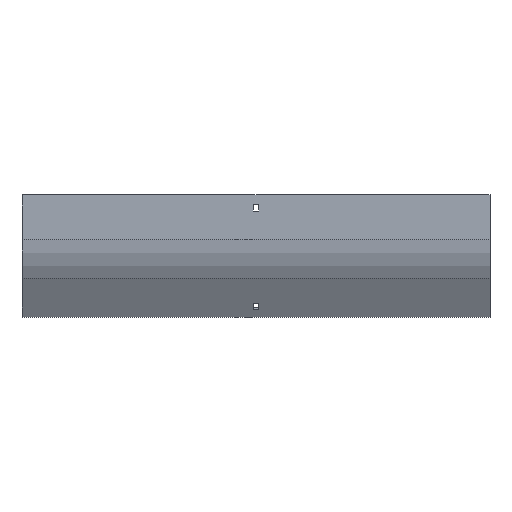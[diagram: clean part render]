
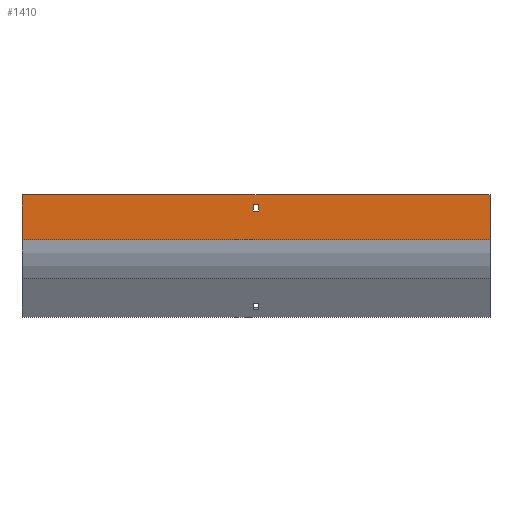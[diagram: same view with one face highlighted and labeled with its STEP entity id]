
A CAD part, front view. The second image highlights one B-rep face of the part: STEP entity #1410.
In plain terms, the highlighted planar face has unit normal (0, -1, 0).
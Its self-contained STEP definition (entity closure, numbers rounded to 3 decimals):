
#13 = VECTOR ( 'NONE', #1596, 1000. ) ;
#68 = DIRECTION ( 'NONE',  ( -1., 0., 0. ) ) ;
#95 = LINE ( 'NONE', #116, #994 ) ;
#116 = CARTESIAN_POINT ( 'NONE',  ( 302., -104., 0. ) ) ;
#180 = ORIENTED_EDGE ( 'NONE', *, *, #1400, .T. ) ;
#185 = CARTESIAN_POINT ( 'NONE',  ( -3.25, -104., -21. ) ) ;
#191 = DIRECTION ( 'NONE',  ( -1., 0., 0. ) ) ;
#220 = LINE ( 'NONE', #665, #951 ) ;
#250 = VERTEX_POINT ( 'NONE', #821 ) ;
#355 = EDGE_CURVE ( 'NONE', #1851, #530, #1368, .T. ) ;
#362 = CARTESIAN_POINT ( 'NONE',  ( 3.25, -104., -21. ) ) ;
#498 = LINE ( 'NONE', #362, #695 ) ;
#499 = EDGE_CURVE ( 'NONE', #250, #1201, #220, .T. ) ;
#503 = VECTOR ( 'NONE', #68, 1000. ) ;
#513 = LINE ( 'NONE', #185, #503 ) ;
#530 = VERTEX_POINT ( 'NONE', #805 ) ;
#555 = CARTESIAN_POINT ( 'NONE',  ( -302., -104., 0. ) ) ;
#558 = EDGE_CURVE ( 'NONE', #530, #606, #498, .T. ) ;
#606 = VERTEX_POINT ( 'NONE', #1159 ) ;
#627 = DIRECTION ( 'NONE',  ( 0., 0., -1. ) ) ;
#648 = LINE ( 'NONE', #780, #1167 ) ;
#664 = ORIENTED_EDGE ( 'NONE', *, *, #499, .F. ) ;
#665 = CARTESIAN_POINT ( 'NONE',  ( 302., -104., -57.867 ) ) ;
#668 = VERTEX_POINT ( 'NONE', #555 ) ;
#678 = EDGE_CURVE ( 'NONE', #1903, #1851, #1616, .T. ) ;
#695 = VECTOR ( 'NONE', #1532, 1000. ) ;
#780 = CARTESIAN_POINT ( 'NONE',  ( -302., -104., -57.867 ) ) ;
#786 = PLANE ( 'NONE',  #944 ) ;
#805 = CARTESIAN_POINT ( 'NONE',  ( 3.25, -104., -12. ) ) ;
#821 = CARTESIAN_POINT ( 'NONE',  ( 302., -104., -57.867 ) ) ;
#860 = EDGE_CURVE ( 'NONE', #668, #1201, #648, .T. ) ;
#926 = CARTESIAN_POINT ( 'NONE',  ( 302., -104., -57.867 ) ) ;
#944 = AXIS2_PLACEMENT_3D ( 'NONE', #926, #1709, #1088 ) ;
#951 = VECTOR ( 'NONE', #191, 1000. ) ;
#962 = EDGE_LOOP ( 'NONE', ( #180, #1180, #1504, #1124 ) ) ;
#994 = VECTOR ( 'NONE', #1308, 1000. ) ;
#997 = CARTESIAN_POINT ( 'NONE',  ( -3.25, -104., -21. ) ) ;
#1060 = VERTEX_POINT ( 'NONE', #1548 ) ;
#1077 = VECTOR ( 'NONE', #1215, 1000. ) ;
#1088 = DIRECTION ( 'NONE',  ( 0., 0., 1. ) ) ;
#1090 = CARTESIAN_POINT ( 'NONE',  ( -302., -104., -57.867 ) ) ;
#1108 = EDGE_LOOP ( 'NONE', ( #1129, #664, #1923, #1434 ) ) ;
#1117 = FACE_BOUND ( 'NONE', #962, .T. ) ;
#1124 = ORIENTED_EDGE ( 'NONE', *, *, #558, .T. ) ;
#1129 = ORIENTED_EDGE ( 'NONE', *, *, #860, .T. ) ;
#1159 = CARTESIAN_POINT ( 'NONE',  ( 3.25, -104., -21. ) ) ;
#1167 = VECTOR ( 'NONE', #1706, 1000. ) ;
#1175 = EDGE_CURVE ( 'NONE', #1060, #250, #1266, .T. ) ;
#1180 = ORIENTED_EDGE ( 'NONE', *, *, #678, .T. ) ;
#1201 = VERTEX_POINT ( 'NONE', #1090 ) ;
#1215 = DIRECTION ( 'NONE',  ( 1., 0., 0. ) ) ;
#1257 = VECTOR ( 'NONE', #627, 1000. ) ;
#1266 = LINE ( 'NONE', #1432, #1257 ) ;
#1308 = DIRECTION ( 'NONE',  ( -1., 0., 0. ) ) ;
#1368 = LINE ( 'NONE', #1657, #1077 ) ;
#1377 = FACE_OUTER_BOUND ( 'NONE', #1108, .T. ) ;
#1400 = EDGE_CURVE ( 'NONE', #606, #1903, #513, .T. ) ;
#1410 = ADVANCED_FACE ( 'NONE', ( #1117, #1377 ), #786, .F. ) ;
#1432 = CARTESIAN_POINT ( 'NONE',  ( 302., -104., -57.867 ) ) ;
#1434 = ORIENTED_EDGE ( 'NONE', *, *, #1869, .T. ) ;
#1464 = CARTESIAN_POINT ( 'NONE',  ( -3.25, -104., -21. ) ) ;
#1504 = ORIENTED_EDGE ( 'NONE', *, *, #355, .T. ) ;
#1532 = DIRECTION ( 'NONE',  ( 0., 0., -1. ) ) ;
#1548 = CARTESIAN_POINT ( 'NONE',  ( 302., -104., 0. ) ) ;
#1596 = DIRECTION ( 'NONE',  ( 0., 0., 1. ) ) ;
#1616 = LINE ( 'NONE', #1464, #13 ) ;
#1657 = CARTESIAN_POINT ( 'NONE',  ( -3.25, -104., -12. ) ) ;
#1706 = DIRECTION ( 'NONE',  ( 0., 0., -1. ) ) ;
#1709 = DIRECTION ( 'NONE',  ( 0., 1., 0. ) ) ;
#1755 = CARTESIAN_POINT ( 'NONE',  ( -3.25, -104., -12. ) ) ;
#1851 = VERTEX_POINT ( 'NONE', #1755 ) ;
#1869 = EDGE_CURVE ( 'NONE', #1060, #668, #95, .T. ) ;
#1903 = VERTEX_POINT ( 'NONE', #997 ) ;
#1923 = ORIENTED_EDGE ( 'NONE', *, *, #1175, .F. ) ;
